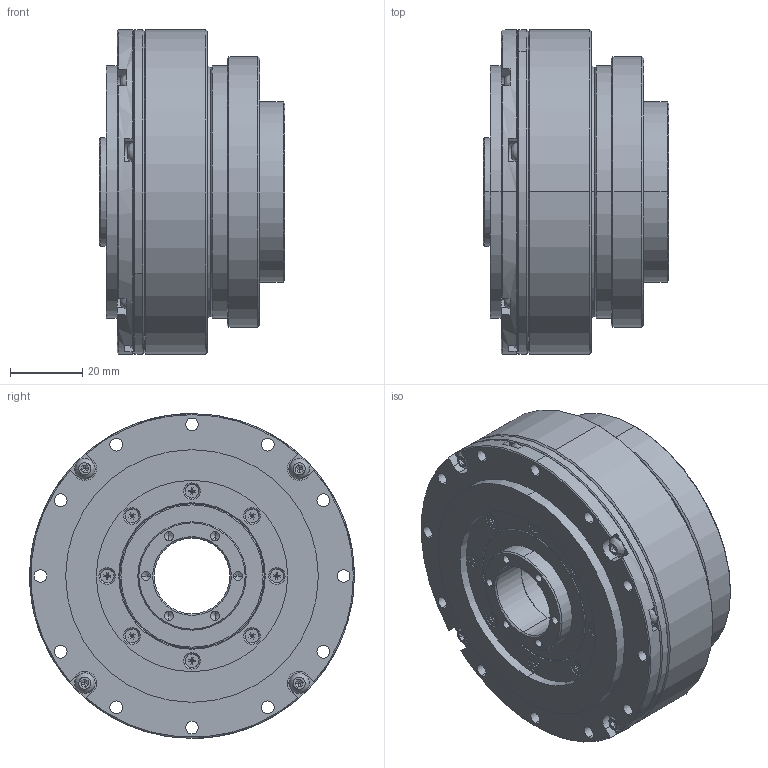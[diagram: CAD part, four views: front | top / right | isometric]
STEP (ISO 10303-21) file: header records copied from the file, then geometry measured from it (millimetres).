
FILE_DESCRIPTION (( 'STEP AP203' ), '1' );
FILE_NAME ('LHS-20-XXX-C-III.step', '2025-01-07T06:18:07', ( '' ), ( '' ), 'SwSTEP 2.0', 'SolidWorks 2023', '' );
FILE_SCHEMA (( 'CONFIG_CONTROL_DESIGN' ));
Length unit declared in the file: metre
Products named in the file (1): LHS-20-XXX-C-III
Bounding box: 51.5 x 90 x 90 mm (x, y, z)
Volume: 174548.8 mm3; surface area: 137587.4 mm2
Topology: 61 solids, 61 shells, 1958 faces, 5332 edges, 3283 vertices
Faces by surface type: cylinder 613, plane 517, bspline 516, cone 312
Entity records: 74077 total; most frequent: CARTESIAN_POINT 27696, ORIENTED_EDGE 10240, DIRECTION 9107, EDGE_CURVE 5120, AXIS2_PLACEMENT_3D 3780, VERTEX_POINT 3283, CIRCLE 2337, EDGE_LOOP 2329
